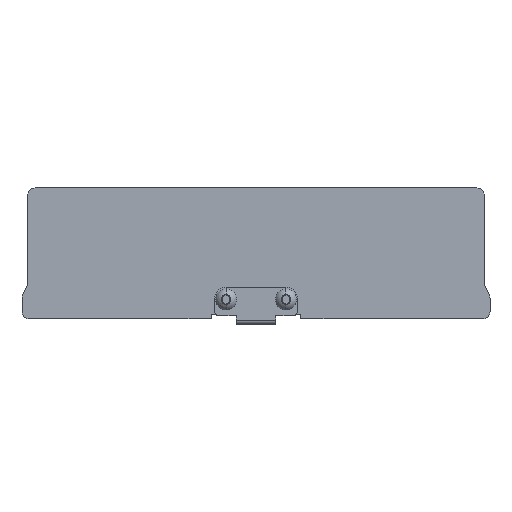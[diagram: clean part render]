
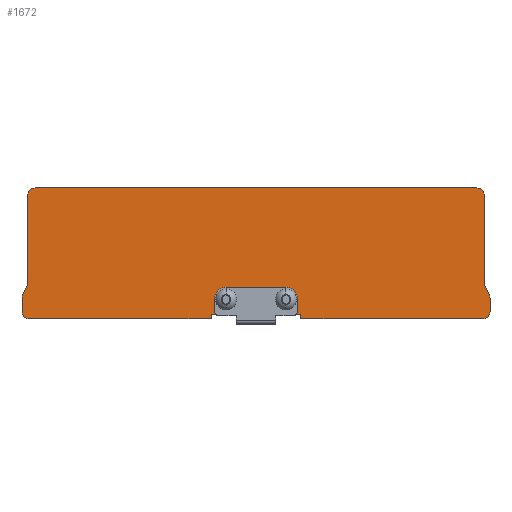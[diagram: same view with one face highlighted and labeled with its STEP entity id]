
A CAD part, top view. The second image highlights one B-rep face of the part: STEP entity #1672.
In plain terms, the highlighted planar face has unit normal (0, 0, 1).
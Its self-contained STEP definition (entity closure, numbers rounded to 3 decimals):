
#327=DIRECTION('',(-1.,0.,0.));
#328=VECTOR('',#327,1.286);
#329=CARTESIAN_POINT('',(74.5,1.2,0.));
#330=LINE('',#329,#328);
#339=DIRECTION('',(-1.,0.,0.));
#340=VECTOR('',#339,1.286);
#341=CARTESIAN_POINT('',(51.786,1.2,0.));
#342=LINE('',#341,#340);
#343=DIRECTION('',(0.,-1.,0.));
#344=VECTOR('',#343,3.55);
#345=CARTESIAN_POINT('',(51.5,5.45,0.));
#346=LINE('',#345,#344);
#347=CARTESIAN_POINT('',(52.5,1.9,0.));
#348=DIRECTION('',(0.,0.,1.));
#349=DIRECTION('',(-1.,0.,0.));
#350=AXIS2_PLACEMENT_3D('',#347,#348,#349);
#352=CARTESIAN_POINT('',(2.,2.,0.));
#353=DIRECTION('',(0.,0.,1.));
#354=DIRECTION('',(-1.,0.,0.));
#355=AXIS2_PLACEMENT_3D('',#352,#353,#354);
#357=DIRECTION('',(0.,-1.,0.));
#358=VECTOR('',#357,3.527);
#359=CARTESIAN_POINT('',(0.,5.527,0.));
#360=LINE('',#359,#358);
#361=CARTESIAN_POINT('',(2.,5.527,0.));
#362=DIRECTION('',(0.,0.,1.));
#363=DIRECTION('',(-0.894,0.448,0.));
#364=AXIS2_PLACEMENT_3D('',#361,#362,#363);
#366=DIRECTION('',(-0.448,-0.894,0.));
#367=VECTOR('',#366,2.409);
#368=CARTESIAN_POINT('',(1.292,8.577,0.));
#369=LINE('',#368,#367);
#370=CARTESIAN_POINT('',(-0.496,9.473,0.));
#371=DIRECTION('',(0.,0.,-1.));
#372=DIRECTION('',(1.,0.,0.));
#373=AXIS2_PLACEMENT_3D('',#370,#371,#372);
#375=DIRECTION('',(0.,-1.,0.));
#376=VECTOR('',#375,23.527);
#377=CARTESIAN_POINT('',(1.504,33.,0.));
#378=LINE('',#377,#376);
#379=CARTESIAN_POINT('',(3.504,33.,0.));
#380=DIRECTION('',(0.,0.,1.));
#381=DIRECTION('',(0.,1.,0.));
#382=AXIS2_PLACEMENT_3D('',#379,#380,#381);
#384=CARTESIAN_POINT('',(121.496,33.,0.));
#385=DIRECTION('',(0.,0.,1.));
#386=DIRECTION('',(1.,0.,0.));
#387=AXIS2_PLACEMENT_3D('',#384,#385,#386);
#389=CARTESIAN_POINT('',(125.496,9.473,0.));
#390=DIRECTION('',(0.,0.,-1.));
#391=DIRECTION('',(-0.894,-0.448,0.));
#392=AXIS2_PLACEMENT_3D('',#389,#390,#391);
#394=DIRECTION('',(-0.448,0.894,0.));
#395=VECTOR('',#394,2.409);
#396=CARTESIAN_POINT('',(124.788,6.423,0.));
#397=LINE('',#396,#395);
#398=CARTESIAN_POINT('',(123.,5.527,0.));
#399=DIRECTION('',(0.,0.,1.));
#400=DIRECTION('',(1.,0.,0.));
#401=AXIS2_PLACEMENT_3D('',#398,#399,#400);
#403=CARTESIAN_POINT('',(123.,2.,0.));
#404=DIRECTION('',(0.,0.,1.));
#405=DIRECTION('',(0.,-1.,0.));
#406=AXIS2_PLACEMENT_3D('',#403,#404,#405);
#408=CARTESIAN_POINT('',(72.5,1.9,0.));
#409=DIRECTION('',(0.,0.,-1.));
#410=DIRECTION('',(1.,0.,0.));
#411=AXIS2_PLACEMENT_3D('',#408,#409,#410);
#413=DIRECTION('',(0.,-1.,0.));
#414=VECTOR('',#413,3.55);
#415=CARTESIAN_POINT('',(73.5,5.45,0.));
#416=LINE('',#415,#414);
#417=CARTESIAN_POINT('',(70.5,5.45,0.));
#418=DIRECTION('',(0.,0.,1.));
#419=DIRECTION('',(1.,0.,0.));
#420=AXIS2_PLACEMENT_3D('',#417,#418,#419);
#422=DIRECTION('',(1.,0.,0.));
#423=VECTOR('',#422,16.);
#424=CARTESIAN_POINT('',(54.5,8.45,0.));
#425=LINE('',#424,#423);
#426=CARTESIAN_POINT('',(54.5,5.45,0.));
#427=DIRECTION('',(0.,0.,-1.));
#428=DIRECTION('',(-1.,0.,0.));
#429=AXIS2_PLACEMENT_3D('',#426,#427,#428);
#499=DIRECTION('',(0.,-1.,0.));
#500=VECTOR('',#499,1.2);
#501=CARTESIAN_POINT('',(50.5,1.2,0.));
#502=LINE('',#501,#500);
#679=DIRECTION('',(-1.,0.,0.));
#680=VECTOR('',#679,48.5);
#681=CARTESIAN_POINT('',(50.5,0.,0.));
#682=LINE('',#681,#680);
#719=DIRECTION('',(1.,0.,0.));
#720=VECTOR('',#719,117.993);
#721=CARTESIAN_POINT('',(3.504,35.,0.));
#722=LINE('',#721,#720);
#731=DIRECTION('',(0.,-1.,0.));
#732=VECTOR('',#731,23.527);
#733=CARTESIAN_POINT('',(123.496,33.,0.));
#734=LINE('',#733,#732);
#759=DIRECTION('',(0.,-1.,0.));
#760=VECTOR('',#759,3.527);
#761=CARTESIAN_POINT('',(125.,5.527,0.));
#762=LINE('',#761,#760);
#771=DIRECTION('',(-1.,0.,0.));
#772=VECTOR('',#771,48.5);
#773=CARTESIAN_POINT('',(123.,0.,0.));
#774=LINE('',#773,#772);
#787=DIRECTION('',(0.,1.,0.));
#788=VECTOR('',#787,1.2);
#789=CARTESIAN_POINT('',(74.5,0.,0.));
#790=LINE('',#789,#788);
#944=CARTESIAN_POINT('',(0.,2.,0.));
#945=VERTEX_POINT('',#944);
#946=CARTESIAN_POINT('',(2.,0.,0.));
#947=VERTEX_POINT('',#946);
#948=CARTESIAN_POINT('',(0.,5.527,0.));
#949=VERTEX_POINT('',#948);
#950=CARTESIAN_POINT('',(0.212,6.423,0.));
#951=VERTEX_POINT('',#950);
#952=CARTESIAN_POINT('',(1.292,8.577,0.));
#953=VERTEX_POINT('',#952);
#954=CARTESIAN_POINT('',(1.504,9.473,0.));
#955=VERTEX_POINT('',#954);
#956=CARTESIAN_POINT('',(1.504,33.,0.));
#957=VERTEX_POINT('',#956);
#958=CARTESIAN_POINT('',(3.504,35.,0.));
#959=VERTEX_POINT('',#958);
#960=CARTESIAN_POINT('',(121.496,35.,0.));
#961=VERTEX_POINT('',#960);
#962=CARTESIAN_POINT('',(123.496,33.,0.));
#963=VERTEX_POINT('',#962);
#964=CARTESIAN_POINT('',(123.496,9.473,0.));
#965=VERTEX_POINT('',#964);
#966=CARTESIAN_POINT('',(123.708,8.577,0.));
#967=VERTEX_POINT('',#966);
#968=CARTESIAN_POINT('',(124.788,6.423,0.));
#969=VERTEX_POINT('',#968);
#970=CARTESIAN_POINT('',(125.,5.527,0.));
#971=VERTEX_POINT('',#970);
#972=CARTESIAN_POINT('',(125.,2.,0.));
#973=VERTEX_POINT('',#972);
#974=CARTESIAN_POINT('',(123.,0.,0.));
#975=VERTEX_POINT('',#974);
#976=CARTESIAN_POINT('',(74.5,0.,0.));
#977=VERTEX_POINT('',#976);
#978=CARTESIAN_POINT('',(74.5,1.2,0.));
#979=VERTEX_POINT('',#978);
#980=CARTESIAN_POINT('',(50.5,1.2,0.));
#981=CARTESIAN_POINT('',(50.5,0.,0.));
#982=VERTEX_POINT('',#980);
#983=VERTEX_POINT('',#981);
#1132=CARTESIAN_POINT('',(51.5,5.45,0.));
#1133=CARTESIAN_POINT('',(51.5,1.9,0.));
#1134=VERTEX_POINT('',#1132);
#1135=VERTEX_POINT('',#1133);
#1136=CARTESIAN_POINT('',(51.786,1.2,0.));
#1137=VERTEX_POINT('',#1136);
#1138=CARTESIAN_POINT('',(73.5,1.9,0.));
#1139=CARTESIAN_POINT('',(73.214,1.2,0.));
#1140=VERTEX_POINT('',#1138);
#1141=VERTEX_POINT('',#1139);
#1142=CARTESIAN_POINT('',(73.5,5.45,0.));
#1143=VERTEX_POINT('',#1142);
#1144=CARTESIAN_POINT('',(70.5,8.45,0.));
#1145=VERTEX_POINT('',#1144);
#1146=CARTESIAN_POINT('',(54.5,8.45,0.));
#1147=VERTEX_POINT('',#1146);
#1611=CARTESIAN_POINT('',(62.5,17.5,0.));
#1612=DIRECTION('',(0.,0.,1.));
#1613=DIRECTION('',(1.,0.,0.));
#1614=AXIS2_PLACEMENT_3D('',#1611,#1612,#1613);
#1615=PLANE('',#1614);
#1617=ORIENTED_EDGE('',*,*,#1616,.T.);
#1619=ORIENTED_EDGE('',*,*,#1618,.T.);
#1620=ORIENTED_EDGE('',*,*,#1606,.T.);
#1622=ORIENTED_EDGE('',*,*,#1621,.T.);
#1624=ORIENTED_EDGE('',*,*,#1623,.T.);
#1626=ORIENTED_EDGE('',*,*,#1625,.F.);
#1628=ORIENTED_EDGE('',*,*,#1627,.F.);
#1630=ORIENTED_EDGE('',*,*,#1629,.F.);
#1632=ORIENTED_EDGE('',*,*,#1631,.F.);
#1634=ORIENTED_EDGE('',*,*,#1633,.F.);
#1636=ORIENTED_EDGE('',*,*,#1635,.F.);
#1638=ORIENTED_EDGE('',*,*,#1637,.F.);
#1640=ORIENTED_EDGE('',*,*,#1639,.T.);
#1642=ORIENTED_EDGE('',*,*,#1641,.F.);
#1644=ORIENTED_EDGE('',*,*,#1643,.T.);
#1646=ORIENTED_EDGE('',*,*,#1645,.F.);
#1648=ORIENTED_EDGE('',*,*,#1647,.F.);
#1650=ORIENTED_EDGE('',*,*,#1649,.F.);
#1652=ORIENTED_EDGE('',*,*,#1651,.T.);
#1654=ORIENTED_EDGE('',*,*,#1653,.F.);
#1656=ORIENTED_EDGE('',*,*,#1655,.T.);
#1658=ORIENTED_EDGE('',*,*,#1657,.T.);
#1659=ORIENTED_EDGE('',*,*,#1598,.T.);
#1661=ORIENTED_EDGE('',*,*,#1660,.F.);
#1663=ORIENTED_EDGE('',*,*,#1662,.F.);
#1665=ORIENTED_EDGE('',*,*,#1664,.T.);
#1667=ORIENTED_EDGE('',*,*,#1666,.F.);
#1669=ORIENTED_EDGE('',*,*,#1668,.F.);
#1670=EDGE_LOOP('',(#1617,#1619,#1620,#1622,#1624,#1626,#1628,#1630,#1632,#1634,
#1636,#1638,#1640,#1642,#1644,#1646,#1648,#1650,#1652,#1654,#1656,#1658,#1659,
#1661,#1663,#1665,#1667,#1669));
#1671=FACE_OUTER_BOUND('',#1670,.F.);
#1672=ADVANCED_FACE('',(#1671),#1615,.T.);
#351=CIRCLE('',#350,1.);
#356=CIRCLE('',#355,2.);
#365=CIRCLE('',#364,2.);
#374=CIRCLE('',#373,2.);
#383=CIRCLE('',#382,2.);
#388=CIRCLE('',#387,2.);
#393=CIRCLE('',#392,2.);
#402=CIRCLE('',#401,2.);
#407=CIRCLE('',#406,2.);
#412=CIRCLE('',#411,1.);
#421=CIRCLE('',#420,3.);
#430=CIRCLE('',#429,3.);
#1598=EDGE_CURVE('',#979,#1141,#330,.T.);
#1606=EDGE_CURVE('',#1137,#982,#342,.T.);
#1616=EDGE_CURVE('',#1134,#1135,#346,.T.);
#1618=EDGE_CURVE('',#1135,#1137,#351,.T.);
#1621=EDGE_CURVE('',#982,#983,#502,.T.);
#1623=EDGE_CURVE('',#983,#947,#682,.T.);
#1625=EDGE_CURVE('',#945,#947,#356,.T.);
#1627=EDGE_CURVE('',#949,#945,#360,.T.);
#1629=EDGE_CURVE('',#951,#949,#365,.T.);
#1631=EDGE_CURVE('',#953,#951,#369,.T.);
#1633=EDGE_CURVE('',#955,#953,#374,.T.);
#1635=EDGE_CURVE('',#957,#955,#378,.T.);
#1637=EDGE_CURVE('',#959,#957,#383,.T.);
#1639=EDGE_CURVE('',#959,#961,#722,.T.);
#1641=EDGE_CURVE('',#963,#961,#388,.T.);
#1643=EDGE_CURVE('',#963,#965,#734,.T.);
#1645=EDGE_CURVE('',#967,#965,#393,.T.);
#1647=EDGE_CURVE('',#969,#967,#397,.T.);
#1649=EDGE_CURVE('',#971,#969,#402,.T.);
#1651=EDGE_CURVE('',#971,#973,#762,.T.);
#1653=EDGE_CURVE('',#975,#973,#407,.T.);
#1655=EDGE_CURVE('',#975,#977,#774,.T.);
#1657=EDGE_CURVE('',#977,#979,#790,.T.);
#1660=EDGE_CURVE('',#1140,#1141,#412,.T.);
#1662=EDGE_CURVE('',#1143,#1140,#416,.T.);
#1664=EDGE_CURVE('',#1143,#1145,#421,.T.);
#1666=EDGE_CURVE('',#1147,#1145,#425,.T.);
#1668=EDGE_CURVE('',#1134,#1147,#430,.T.);
